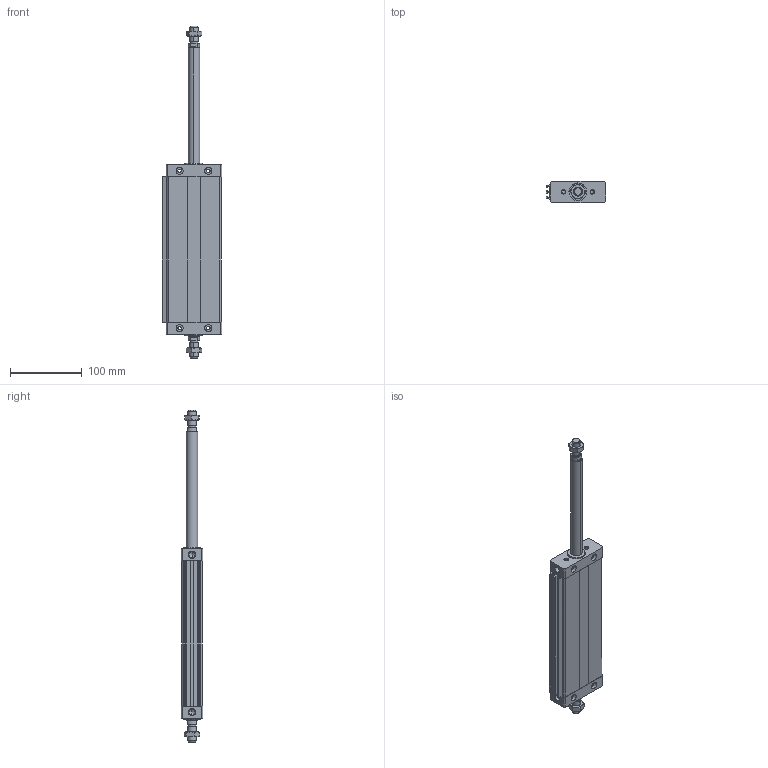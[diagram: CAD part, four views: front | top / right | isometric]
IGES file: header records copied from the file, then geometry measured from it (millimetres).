
Global section: file name: No Iges File Name specified; native system: Autodesk Inventor 2011; preprocessor: AutoDesk Inventor Iges Exporter R2011; author: airolcr1; date: 20101213.153209; units: millimetre
Bounding box: 82.5 x 30 x 462 mm (x, y, z)
Volume: 392915.9 mm3; surface area: 137037.5 mm2
Topology: 6 solids, 6 shells, 276 faces, 652 edges, 396 vertices
Faces by surface type: bspline 110, plane 98, cone 36, cylinder 18, revolution 14
